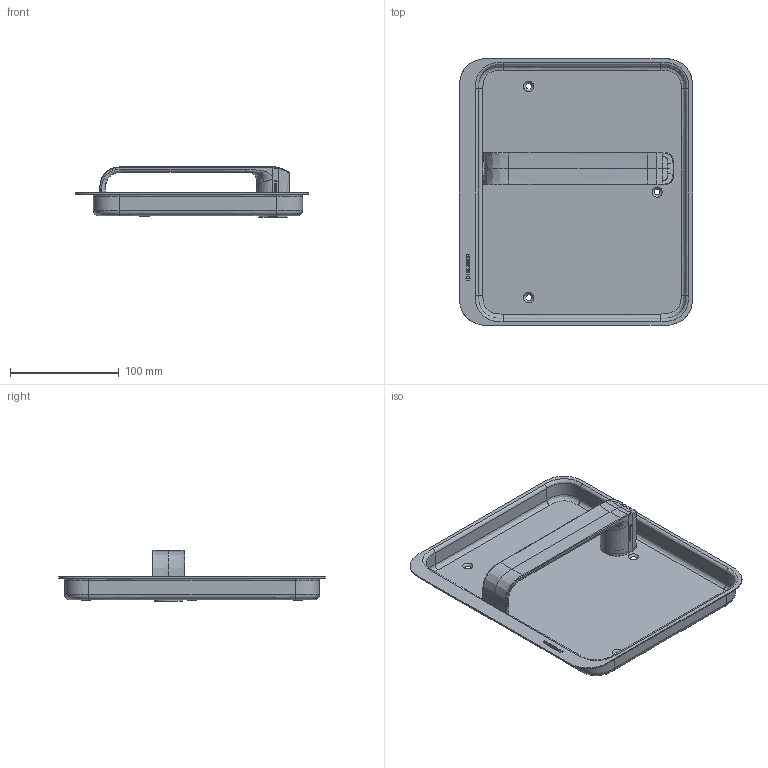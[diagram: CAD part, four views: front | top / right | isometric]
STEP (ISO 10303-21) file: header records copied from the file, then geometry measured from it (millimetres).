
FILE_DESCRIPTION(/* description */ (''),/* implementation_level */ '2;1');
FILE_NAME(/* name */ 'C:\ADSK_DMS_WS\Designs\Vorschläge\Loc Schalen\Muschel Serie 9\Heusser-Muschel S9.20.D4.0L.stp',/* time_stamp */ '2020-10-12T15:38:27+02:00',/* author */ ('gm'),/* organization */ (''),/* preprocessor_version */ 'ST-DEVELOPER v16.5',/* originating_system */ 'Autodesk Inventor 2017',/* authorisation */ '');
FILE_SCHEMA (('AUTOMOTIVE_DESIGN { 1 0 10303 214 3 1 1 }'));
Length unit declared in the file: millimetre
Products named in the file (1): S9.20.D4Links
Bounding box: 214 x 245 x 47.34 mm (x, y, z)
Volume: 118797.3 mm3; surface area: 153635.2 mm2
Topology: 1 solids, 2 shells, 595 faces, 1580 edges, 1029 vertices
Faces by surface type: plane 287, bspline 267, cylinder 23, cone 18
Full cylindrical faces by diameter (mm): 1.7 x2, 4.917 x1, 14.2 x1, 16 x3, 18 x1, 19 x1, 19.1 x1, 23 x1, 23.2 x1, 24 x1, 25 x1, 26 x1, 28 x1, 28.6 x1
Entity records: 29451 total; most frequent: CARTESIAN_POINT 15830, ORIENTED_EDGE 3070, DIRECTION 1879, EDGE_CURVE 1535, VERTEX_POINT 1019, LINE 879, VECTOR 879, EDGE_LOOP 690
